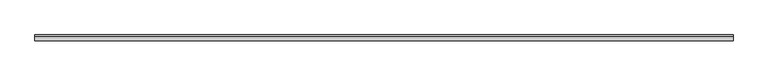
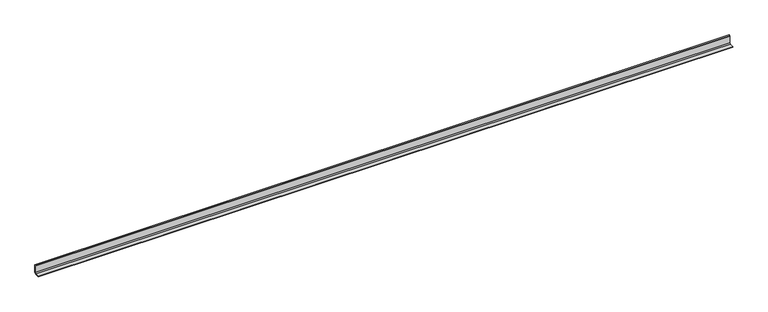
"""IFC4 building model written with IfcOpenShell, lengths in millimetres: proxy geometry, Cable_Tray_Divider_Profile_PSBPE_Basorplast : Basorplast PSBPE 60."""

from ifc_helpers import new_model, si_unit, frame, origin, place, context, project, spatial, polyline, outline, extrude, source, transform, mapped, element, save


def generic_models_3a76c5b3(model_context):
    return source(origin(), model_context, "Body", "SweptSolid", [
        extrude(outline(polyline([(0.0, -52.5086545), (-5.0, -57.5086545), (-25.0, -57.5086545), (-25.0, -55.5086545), (-5.8284271, -55.5086545), (-2.0, -51.6802273), (-2.0, -18.5086545), (-3.0, -18.5086545), (-3.0, -19.5086545), (-5.0, -19.5086545), (-5.0, -16.5086545), (0.0, -16.5086545), (0.0, -52.5086545)])), frame((0.0, 0.0, 0.0), z_axis=(1.0, 0.0, 0.0), x_axis=(0.0, 1.0, 0.0)), (0.0, 0.0, 1.0), 3000.0),
    ])


if __name__ == "__main__":
    model = new_model("IFC4")
    model_context = context("Model", 3, world=origin())
    ifc_project = project(units=[si_unit("LENGTHUNIT", "METRE", prefix="MILLI")], contexts=[model_context])
    site = spatial("IfcSite", under=ifc_project)
    building = spatial("IfcBuilding", under=site)
    placement = place(None, origin())
    generic_models_shape = generic_models_3a76c5b3(model_context)
    element("IfcBuildingElementProxy", 1, Name="Cable_Tray_Divider_Profile_PSBPE_Basorplast : Basorplast PSBPE 60", ObjectType="Cable_Tray_Divider_Profile_PSBPE_Basorplast : Basorplast PSBPE 60", at=placement, inside=building, context=model_context, shape_type="MappedRepresentation", body=[
        mapped(generic_models_shape, transform((0.0, 0.0, 0.0), x_axis=(1.0, 0.0, 0.0), y_axis=(0.0, 1.0, 0.0), z_axis=(0.0, 0.0, 1.0))),
    ])
    save(model, "model.ifc")
